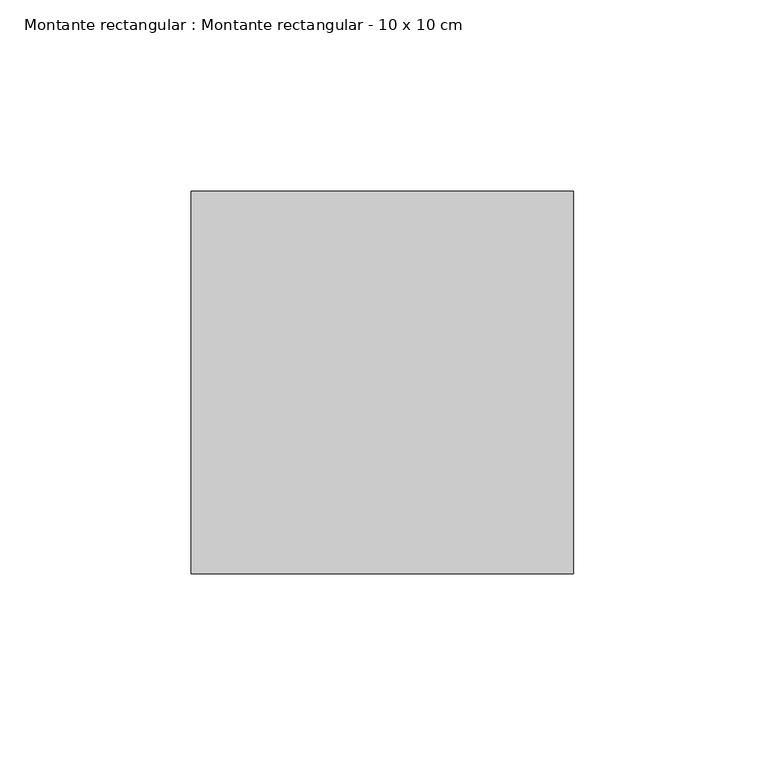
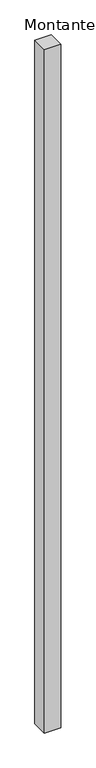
"""IFC4 building model written with IfcOpenShell, lengths in millimetres: member geometry, Montante rectangular : Montante rectangular - 10 x 10 cm."""

from ifc_helpers import new_model, si_unit, frame, origin, place, context, project, spatial, polyline, outline, extrude, source, transform, mapped, element, save


def montante_rectangular_montante_rectangular_10_x_10_cm_e4f58bcd(model_context):
    return source(origin(), model_context, "Body", "SweptSolid", [
        extrude(outline(polyline([(-100.0, -50.0), (-100.0, 50.0), (0.0, 50.0), (0.0, -50.0), (-100.0, -50.0)])), frame((0.0, 0.0, -4400.0), z_axis=(0.0, 0.0, 1.0), x_axis=(1.0, 0.0, 0.0)), (0.0, 0.0, 1.0), 4400.0),
    ])


if __name__ == "__main__":
    model = new_model("IFC4")
    model_context = context("Model", 3, world=origin())
    ifc_project = project(units=[si_unit("LENGTHUNIT", "METRE", prefix="MILLI")], contexts=[model_context])
    site = spatial("IfcSite", under=ifc_project)
    building = spatial("IfcBuilding", under=site)
    placement = place(None, origin())
    montante_rectangular_montante_rectangular_10_x_10_cm_shape = montante_rectangular_montante_rectangular_10_x_10_cm_e4f58bcd(model_context)
    element("IfcMember", 1, ObjectType="Montante rectangular : Montante rectangular - 10 x 10 cm", at=placement, inside=building, context=model_context, shape_type="MappedRepresentation", body=[
        mapped(montante_rectangular_montante_rectangular_10_x_10_cm_shape, transform((0.0, 0.0, 0.0), x_axis=(1.0, 0.0, 0.0), y_axis=(0.0, 1.0, 0.0), z_axis=(0.0, 0.0, 1.0))),
    ])
    save(model, "model.ifc")
